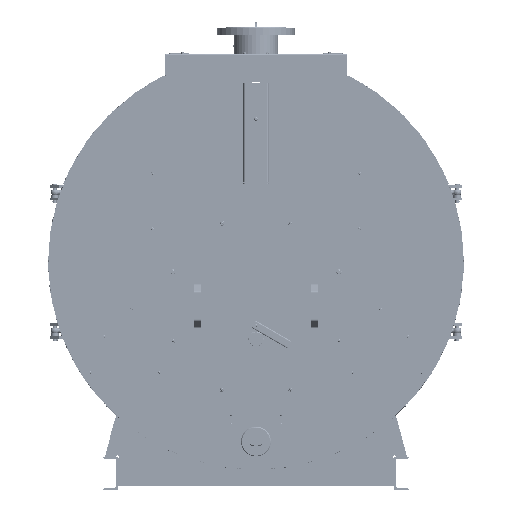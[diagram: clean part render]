
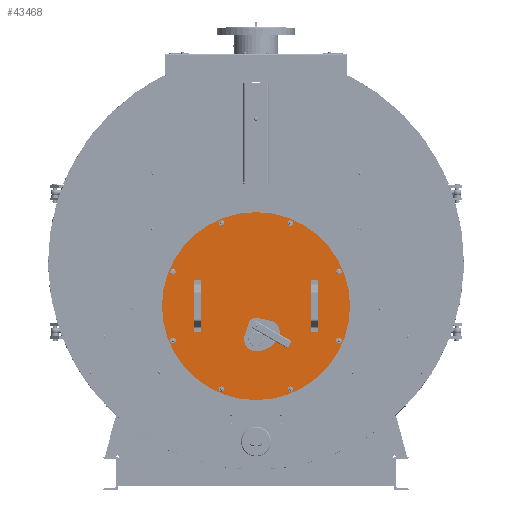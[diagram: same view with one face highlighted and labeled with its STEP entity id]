
A CAD part, left-side view. The second image highlights one B-rep face of the part: STEP entity #43468.
In plain terms, the highlighted planar face has unit normal (-1, 0, 0).
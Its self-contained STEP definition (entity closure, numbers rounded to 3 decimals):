
#43468=ADVANCED_FACE('',(#115856,#115858,#115860,#115862,#115864,#115866,#115868,
#115870,#115872,#115874),#115876,.F.);
#115856=FACE_BOUND('',#115857,.T.);
#115857=EDGE_LOOP('',(#167997));
#115858=FACE_BOUND('',#115859,.T.);
#115859=EDGE_LOOP('',(#167998));
#115860=FACE_BOUND('',#115861,.T.);
#115861=EDGE_LOOP('',(#167999));
#115862=FACE_BOUND('',#115863,.T.);
#115863=EDGE_LOOP('',(#168000));
#115864=FACE_BOUND('',#115865,.T.);
#115865=EDGE_LOOP('',(#168001));
#115866=FACE_BOUND('',#115867,.T.);
#115867=EDGE_LOOP('',(#168002));
#115868=FACE_BOUND('',#115869,.T.);
#115869=EDGE_LOOP('',(#168003));
#115870=FACE_BOUND('',#115871,.T.);
#115871=EDGE_LOOP('',(#168004));
#115872=FACE_BOUND('',#115873,.T.);
#115873=EDGE_LOOP('',(#168005));
#115874=FACE_BOUND('',#115875,.T.);
#115875=EDGE_LOOP('',(#168006));
#115876=PLANE('',#115877);
#115877=AXIS2_PLACEMENT_3D('',#115878,#115879,#115880);
#115878=CARTESIAN_POINT('',(-738.,0.,100.));
#115879=DIRECTION('',(1.,0.,0.));
#115880=DIRECTION('',(0.,1.,0.));
#167997=ORIENTED_EDGE('',*,*,#188071,.F.);
#167998=ORIENTED_EDGE('',*,*,#188072,.T.);
#167999=ORIENTED_EDGE('',*,*,#188073,.T.);
#168000=ORIENTED_EDGE('',*,*,#188074,.T.);
#168001=ORIENTED_EDGE('',*,*,#188075,.T.);
#168002=ORIENTED_EDGE('',*,*,#188076,.T.);
#168003=ORIENTED_EDGE('',*,*,#188077,.T.);
#168004=ORIENTED_EDGE('',*,*,#188078,.T.);
#168005=ORIENTED_EDGE('',*,*,#188079,.T.);
#168006=ORIENTED_EDGE('',*,*,#188080,.T.);
#188071=EDGE_CURVE('',#207629,#207629,#207630,.T.);
#188072=EDGE_CURVE('',#207631,#207631,#207632,.T.);
#188073=EDGE_CURVE('',#207633,#207633,#207634,.T.);
#188074=EDGE_CURVE('',#207635,#207635,#207636,.T.);
#188075=EDGE_CURVE('',#207637,#207637,#207638,.T.);
#188076=EDGE_CURVE('',#207639,#207639,#207640,.T.);
#188077=EDGE_CURVE('',#207641,#207641,#207642,.T.);
#188078=EDGE_CURVE('',#207643,#207643,#207644,.T.);
#188079=EDGE_CURVE('',#207645,#207645,#207646,.T.);
#188080=EDGE_CURVE('',#207647,#207647,#207648,.T.);
#207629=VERTEX_POINT('',#288979);
#207630=CIRCLE('',#288980,340.);
#207631=VERTEX_POINT('',#288984);
#207632=CIRCLE('',#288985,20.);
#207633=VERTEX_POINT('',#288989);
#207634=CIRCLE('',#288990,7.);
#207635=VERTEX_POINT('',#288994);
#207636=CIRCLE('',#288995,7.);
#207637=VERTEX_POINT('',#288999);
#207638=CIRCLE('',#289000,7.);
#207639=VERTEX_POINT('',#289004);
#207640=CIRCLE('',#289005,7.);
#207641=VERTEX_POINT('',#289009);
#207642=CIRCLE('',#289010,7.);
#207643=VERTEX_POINT('',#289014);
#207644=CIRCLE('',#289015,7.);
#207645=VERTEX_POINT('',#289019);
#207646=CIRCLE('',#289020,7.);
#207647=VERTEX_POINT('',#289024);
#207648=CIRCLE('',#289025,7.);
#288979=CARTESIAN_POINT('',(-738.,340.,100.));
#288980=AXIS2_PLACEMENT_3D('',#288981,#288982,#288983);
#288981=CARTESIAN_POINT('',(-738.,0.,100.));
#288982=DIRECTION('',(1.,0.,0.));
#288983=DIRECTION('',(0.,1.,0.));
#288984=CARTESIAN_POINT('',(-738.,20.,-20.));
#288985=AXIS2_PLACEMENT_3D('',#288986,#288987,#288988);
#288986=CARTESIAN_POINT('',(-738.,0.,-20.));
#288987=DIRECTION('',(1.,0.,0.));
#288988=DIRECTION('',(0.,1.,0.));
#288989=CARTESIAN_POINT('',(-738.,131.372,400.261));
#288990=AXIS2_PLACEMENT_3D('',#288991,#288992,#288993);
#288991=CARTESIAN_POINT('',(-738.,124.372,400.261));
#288992=DIRECTION('',(1.,0.,0.));
#288993=DIRECTION('',(0.,1.,0.));
#288994=CARTESIAN_POINT('',(-738.,-117.372,400.261));
#288995=AXIS2_PLACEMENT_3D('',#288996,#288997,#288998);
#288996=CARTESIAN_POINT('',(-738.,-124.372,400.261));
#288997=DIRECTION('',(1.,0.,0.));
#288998=DIRECTION('',(0.,1.,0.));
#288999=CARTESIAN_POINT('',(-738.,-293.261,224.372));
#289000=AXIS2_PLACEMENT_3D('',#289001,#289002,#289003);
#289001=CARTESIAN_POINT('',(-738.,-300.261,224.372));
#289002=DIRECTION('',(1.,0.,0.));
#289003=DIRECTION('',(0.,1.,0.));
#289004=CARTESIAN_POINT('',(-738.,131.372,-200.261));
#289005=AXIS2_PLACEMENT_3D('',#289006,#289007,#289008);
#289006=CARTESIAN_POINT('',(-738.,124.372,-200.261));
#289007=DIRECTION('',(1.,0.,0.));
#289008=DIRECTION('',(0.,1.,0.));
#289009=CARTESIAN_POINT('',(-738.,307.261,-24.372));
#289010=AXIS2_PLACEMENT_3D('',#289011,#289012,#289013);
#289011=CARTESIAN_POINT('',(-738.,300.261,-24.372));
#289012=DIRECTION('',(1.,0.,0.));
#289013=DIRECTION('',(0.,1.,0.));
#289014=CARTESIAN_POINT('',(-738.,307.261,224.372));
#289015=AXIS2_PLACEMENT_3D('',#289016,#289017,#289018);
#289016=CARTESIAN_POINT('',(-738.,300.261,224.372));
#289017=DIRECTION('',(1.,0.,0.));
#289018=DIRECTION('',(0.,1.,0.));
#289019=CARTESIAN_POINT('',(-738.,-293.261,-24.372));
#289020=AXIS2_PLACEMENT_3D('',#289021,#289022,#289023);
#289021=CARTESIAN_POINT('',(-738.,-300.261,-24.372));
#289022=DIRECTION('',(1.,0.,0.));
#289023=DIRECTION('',(0.,1.,0.));
#289024=CARTESIAN_POINT('',(-738.,-117.372,-200.261));
#289025=AXIS2_PLACEMENT_3D('',#289026,#289027,#289028);
#289026=CARTESIAN_POINT('',(-738.,-124.372,-200.261));
#289027=DIRECTION('',(1.,0.,0.));
#289028=DIRECTION('',(0.,1.,0.));
